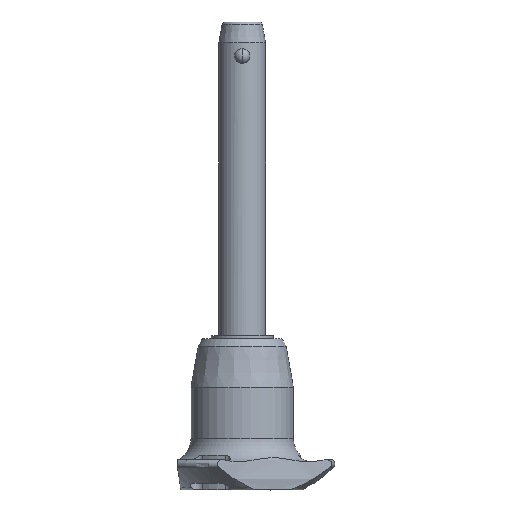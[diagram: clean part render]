
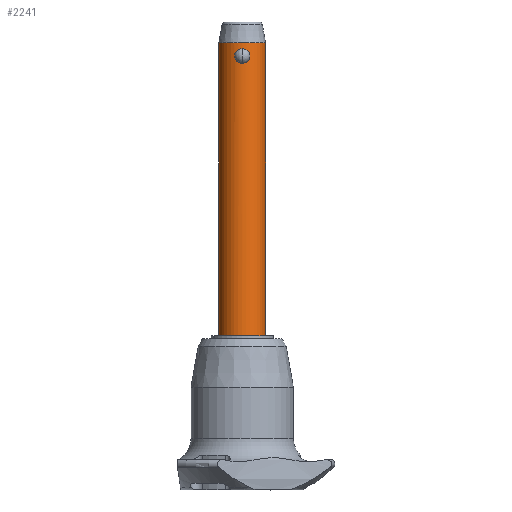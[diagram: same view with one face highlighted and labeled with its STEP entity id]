
A CAD part, front view. The second image highlights one B-rep face of the part: STEP entity #2241.
In plain terms, the highlighted cylindrical face has radius 6 mm (diameter 12 mm), a partial arc.
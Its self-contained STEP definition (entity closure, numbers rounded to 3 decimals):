
#21 = CARTESIAN_POINT ( 'NONE',  ( 0., -6., 3.708 ) ) ;
#109 = DIRECTION ( 'NONE',  ( 0., 0., 1. ) ) ;
#113 = FACE_BOUND ( 'NONE', #2066, .T. ) ;
#131 = CARTESIAN_POINT ( 'NONE',  ( -1.278, -5.863, 3.271 ) ) ;
#142 = CARTESIAN_POINT ( 'NONE',  ( 0.966, -5.923, 0.232 ) ) ;
#159 = CARTESIAN_POINT ( 'NONE',  ( -1.942, -5.677, 1.604 ) ) ;
#228 = AXIS2_PLACEMENT_3D ( 'NONE', #1920, #1703, #2588 ) ;
#281 = CARTESIAN_POINT ( 'NONE',  ( 1.687, -5.758, 0.899 ) ) ;
#307 = CARTESIAN_POINT ( 'NONE',  ( 1.279, -5.863, 3.27 ) ) ;
#328 = ORIENTED_EDGE ( 'NONE', *, *, #2100, .F. ) ;
#368 = CARTESIAN_POINT ( 'NONE',  ( -1.46, -5.821, 3.103 ) ) ;
#370 = EDGE_CURVE ( 'NONE', #959, #1585, #1923, .T. ) ;
#381 = CARTESIAN_POINT ( 'NONE',  ( -1.9, -5.692, 2.359 ) ) ;
#401 = EDGE_CURVE ( 'NONE', #1422, #959, #1209, .T. ) ;
#485 = CARTESIAN_POINT ( 'NONE',  ( 1.178, -5.884, 3.346 ) ) ;
#498 = CARTESIAN_POINT ( 'NONE',  ( 0.855, -5.94, 3.53 ) ) ;
#503 = VECTOR ( 'NONE', #109, 1000. ) ;
#513 = ORIENTED_EDGE ( 'NONE', *, *, #1198, .F. ) ;
#515 = CARTESIAN_POINT ( 'NONE',  ( 1.749, -5.74, 1.007 ) ) ;
#528 = CARTESIAN_POINT ( 'NONE',  ( 1.901, -5.692, 1.35 ) ) ;
#560 = CARTESIAN_POINT ( 'NONE',  ( -0.62, -5.969, 3.619 ) ) ;
#581 = CARTESIAN_POINT ( 'NONE',  ( 0., -6., 0. ) ) ;
#592 = CARTESIAN_POINT ( 'NONE',  ( 0., -6., 3.708 ) ) ;
#633 = LINE ( 'NONE', #2566, #2531 ) ;
#634 = CARTESIAN_POINT ( 'NONE',  ( 0.62, -5.969, 3.619 ) ) ;
#645 = EDGE_LOOP ( 'NONE', ( #2186, #328, #2409, #689 ) ) ;
#647 = AXIS2_PLACEMENT_3D ( 'NONE', #2735, #2084, #715 ) ;
#689 = ORIENTED_EDGE ( 'NONE', *, *, #370, .T. ) ;
#701 = CARTESIAN_POINT ( 'NONE',  ( 1.89, -5.695, 2.349 ) ) ;
#713 = CARTESIAN_POINT ( 'NONE',  ( 1.277, -5.863, 0.437 ) ) ;
#715 = DIRECTION ( 'NONE',  ( 1., 0., 0. ) ) ;
#804 = CARTESIAN_POINT ( 'NONE',  ( 0.498, -5.981, 3.652 ) ) ;
#805 = CARTESIAN_POINT ( 'NONE',  ( 6., 0., -70. ) ) ;
#826 = CARTESIAN_POINT ( 'NONE',  ( -1.852, -5.707, 1.239 ) ) ;
#832 = CARTESIAN_POINT ( 'NONE',  ( 6., 0., -70. ) ) ;
#874 = CARTESIAN_POINT ( 'NONE',  ( 6., 0., 5.3 ) ) ;
#956 = CARTESIAN_POINT ( 'NONE',  ( 0.503, -5.983, 0.045 ) ) ;
#959 = VERTEX_POINT ( 'NONE', #874 ) ;
#988 = CARTESIAN_POINT ( 'NONE',  ( -0.504, -5.983, 0.045 ) ) ;
#1002 = CARTESIAN_POINT ( 'NONE',  ( -1.177, -5.884, 3.347 ) ) ;
#1030 = CARTESIAN_POINT ( 'NONE',  ( -1.278, -5.863, 0.437 ) ) ;
#1033 = DIRECTION ( 'NONE',  ( 0., 0., 1. ) ) ;
#1041 = CARTESIAN_POINT ( 'NONE',  ( -1.89, -5.695, 1.358 ) ) ;
#1049 = AXIS2_PLACEMENT_3D ( 'NONE', #1110, #2715, #2253 ) ;
#1065 = CARTESIAN_POINT ( 'NONE',  ( 0.252, -5.996, 3.697 ) ) ;
#1081 = VERTEX_POINT ( 'NONE', #1650 ) ;
#1110 = CARTESIAN_POINT ( 'NONE',  ( 0., 0., 5.3 ) ) ;
#1198 = EDGE_CURVE ( 'NONE', #1081, #2155, #2237, .T. ) ;
#1202 = CARTESIAN_POINT ( 'NONE',  ( -1.541, -5.799, 3.011 ) ) ;
#1209 = LINE ( 'NONE', #805, #503 ) ;
#1229 = B_SPLINE_CURVE_WITH_KNOTS ( 'NONE', 3,
 ( #581, #2487, #956, #2704, #142, #2692, #713, #1450, #1834, #281, #515, #528, #1574, #1790, #2679, #701, #1386, #1398, #2461, #307, #485, #2243, #498, #634, #804, #1065, #1264, #592 ),
 .UNSPECIFIED., .F., .F.,
 ( 4, 2, 2, 2, 2, 2, 2, 2, 2, 2, 2, 2, 2, 4 ),
 ( 0.006, 0.007, 0.007, 0.008, 0.008, 0.008, 0.009, 0.009, 0.01, 0.011, 0.011, 0.011, 0.012, 0.012 ),
 .UNSPECIFIED. ) ;
#1246 = CYLINDRICAL_SURFACE ( 'NONE', #228, 6. ) ;
#1264 = CARTESIAN_POINT ( 'NONE',  ( 0.127, -6., 3.708 ) ) ;
#1386 = CARTESIAN_POINT ( 'NONE',  ( 1.851, -5.708, 2.47 ) ) ;
#1398 = CARTESIAN_POINT ( 'NONE',  ( 1.7, -5.755, 2.812 ) ) ;
#1422 = VERTEX_POINT ( 'NONE', #832 ) ;
#1424 = EDGE_CURVE ( 'NONE', #2500, #1585, #633, .T. ) ;
#1444 = CARTESIAN_POINT ( 'NONE',  ( -0.127, -6., 3.708 ) ) ;
#1450 = CARTESIAN_POINT ( 'NONE',  ( 1.459, -5.821, 0.604 ) ) ;
#1456 = CARTESIAN_POINT ( 'NONE',  ( -0.967, -5.923, 0.233 ) ) ;
#1469 = CIRCLE ( 'NONE', #647, 6. ) ;
#1473 = CARTESIAN_POINT ( 'NONE',  ( -0.854, -5.94, 3.53 ) ) ;
#1479 = CARTESIAN_POINT ( 'NONE',  ( -6., 0., -70. ) ) ;
#1574 = CARTESIAN_POINT ( 'NONE',  ( 1.955, -5.673, 1.6 ) ) ;
#1585 = VERTEX_POINT ( 'NONE', #2453 ) ;
#1647 = CARTESIAN_POINT ( 'NONE',  ( -0.498, -5.981, 3.652 ) ) ;
#1650 = CARTESIAN_POINT ( 'NONE',  ( 0., -6., 3.708 ) ) ;
#1663 = CARTESIAN_POINT ( 'NONE',  ( -0.853, -5.94, 0.177 ) ) ;
#1677 = CARTESIAN_POINT ( 'NONE',  ( -0.966, -5.923, 3.476 ) ) ;
#1703 = DIRECTION ( 'NONE',  ( 0., 0., 1. ) ) ;
#1704 = CARTESIAN_POINT ( 'NONE',  ( -1.687, -5.759, 2.809 ) ) ;
#1790 = CARTESIAN_POINT ( 'NONE',  ( 1.955, -5.673, 1.979 ) ) ;
#1834 = CARTESIAN_POINT ( 'NONE',  ( 1.543, -5.799, 0.699 ) ) ;
#1905 = CARTESIAN_POINT ( 'NONE',  ( 0., -6., 0. ) ) ;
#1920 = CARTESIAN_POINT ( 'NONE',  ( 0., 0., -70. ) ) ;
#1921 = CARTESIAN_POINT ( 'NONE',  ( -0.252, -5.996, 3.697 ) ) ;
#1923 = CIRCLE ( 'NONE', #1049, 6. ) ;
#2066 = EDGE_LOOP ( 'NONE', ( #513, #2515 ) ) ;
#2084 = DIRECTION ( 'NONE',  ( 0., 0., -1. ) ) ;
#2085 = CARTESIAN_POINT ( 'NONE',  ( -1.179, -5.884, 0.363 ) ) ;
#2097 = FACE_OUTER_BOUND ( 'NONE', #645, .T. ) ;
#2100 = EDGE_CURVE ( 'NONE', #1422, #2500, #1469, .T. ) ;
#2129 = CARTESIAN_POINT ( 'NONE',  ( -0.25, -6., 0. ) ) ;
#2155 = VERTEX_POINT ( 'NONE', #1905 ) ;
#2186 = ORIENTED_EDGE ( 'NONE', *, *, #1424, .F. ) ;
#2237 = B_SPLINE_CURVE_WITH_KNOTS ( 'NONE', 3,
 ( #21, #1444, #1921, #1647, #560, #1473, #1677, #1002, #131, #368, #1202, #1704, #2589, #381, #2548, #2316, #159, #1041, #826, #2804, #2534, #1030, #2085, #1456, #1663, #988, #2129, #2300 ),
 .UNSPECIFIED., .F., .F.,
 ( 4, 2, 2, 2, 2, 2, 2, 2, 2, 2, 2, 2, 2, 4 ),
 ( 0., 0., 0.001, 0.001, 0.002, 0.002, 0.002, 0.003, 0.003, 0.004, 0.005, 0.005, 0.005, 0.006 ),
 .UNSPECIFIED. ) ;
#2241 = ADVANCED_FACE ( 'NONE', ( #2097, #113 ), #1246, .T. ) ;
#2243 = CARTESIAN_POINT ( 'NONE',  ( 0.966, -5.923, 3.476 ) ) ;
#2253 = DIRECTION ( 'NONE',  ( 1., 0., 0. ) ) ;
#2300 = CARTESIAN_POINT ( 'NONE',  ( 0., -6., 0. ) ) ;
#2316 = CARTESIAN_POINT ( 'NONE',  ( -1.955, -5.673, 1.731 ) ) ;
#2409 = ORIENTED_EDGE ( 'NONE', *, *, #401, .T. ) ;
#2430 = EDGE_CURVE ( 'NONE', #2155, #1081, #1229, .T. ) ;
#2453 = CARTESIAN_POINT ( 'NONE',  ( -6., 0., 5.3 ) ) ;
#2461 = CARTESIAN_POINT ( 'NONE',  ( 1.551, -5.799, 3.018 ) ) ;
#2487 = CARTESIAN_POINT ( 'NONE',  ( 0.25, -6., 0. ) ) ;
#2500 = VERTEX_POINT ( 'NONE', #1479 ) ;
#2515 = ORIENTED_EDGE ( 'NONE', *, *, #2430, .F. ) ;
#2531 = VECTOR ( 'NONE', #1033, 1000. ) ;
#2534 = CARTESIAN_POINT ( 'NONE',  ( -1.551, -5.799, 0.69 ) ) ;
#2548 = CARTESIAN_POINT ( 'NONE',  ( -1.955, -5.673, 2.107 ) ) ;
#2566 = CARTESIAN_POINT ( 'NONE',  ( -6., 0., -70. ) ) ;
#2588 = DIRECTION ( 'NONE',  ( 1., 0., 0. ) ) ;
#2589 = CARTESIAN_POINT ( 'NONE',  ( -1.75, -5.74, 2.7 ) ) ;
#2679 = CARTESIAN_POINT ( 'NONE',  ( 1.942, -5.677, 2.103 ) ) ;
#2692 = CARTESIAN_POINT ( 'NONE',  ( 1.178, -5.884, 0.362 ) ) ;
#2704 = CARTESIAN_POINT ( 'NONE',  ( 0.853, -5.94, 0.177 ) ) ;
#2715 = DIRECTION ( 'NONE',  ( 0., 0., -1. ) ) ;
#2735 = CARTESIAN_POINT ( 'NONE',  ( 0., 0., -70. ) ) ;
#2804 = CARTESIAN_POINT ( 'NONE',  ( -1.7, -5.755, 0.895 ) ) ;
